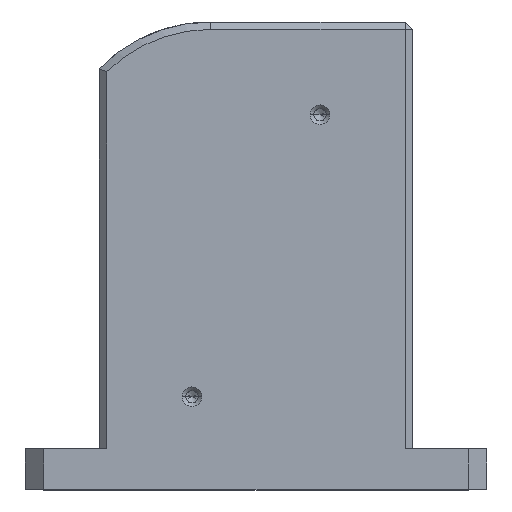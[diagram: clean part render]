
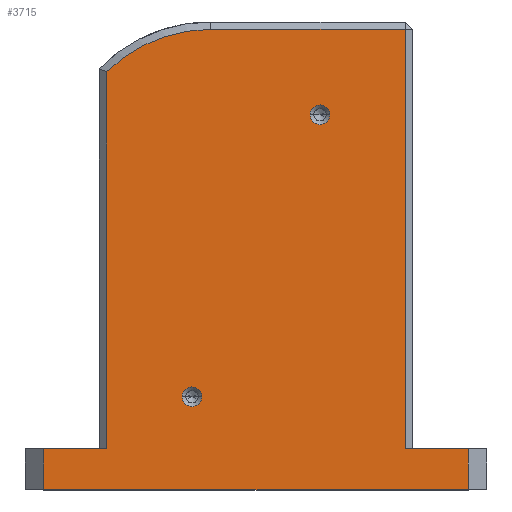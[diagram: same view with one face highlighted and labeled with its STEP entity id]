
A CAD part, top view. The second image highlights one B-rep face of the part: STEP entity #3715.
In plain terms, the highlighted planar face has unit normal (0, 0, 1).
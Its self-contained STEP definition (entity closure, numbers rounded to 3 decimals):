
#30 = DIRECTION ( 'NONE',  ( 0., 1., 0. ) ) ;
#131 = DIRECTION ( 'NONE',  ( 0., -1., 0. ) ) ;
#192 = VERTEX_POINT ( 'NONE', #2299 ) ;
#318 = EDGE_CURVE ( 'NONE', #848, #192, #13843, .T. ) ;
#848 = VERTEX_POINT ( 'NONE', #5892 ) ;
#1091 = AXIS2_PLACEMENT_3D ( 'NONE', #8907, #12371, #5644 ) ;
#1098 = VERTEX_POINT ( 'NONE', #2086 ) ;
#1299 = CARTESIAN_POINT ( 'NONE',  ( 32.15, 17., 37.5 ) ) ;
#1306 = DIRECTION ( 'NONE',  ( 1., 0., 0. ) ) ;
#1314 = EDGE_CURVE ( 'NONE', #6120, #17265, #7672, .T. ) ;
#1587 = ORIENTED_EDGE ( 'NONE', *, *, #2067, .T. ) ;
#1769 = DIRECTION ( 'NONE',  ( 1., 0., 0. ) ) ;
#1961 = ORIENTED_EDGE ( 'NONE', *, *, #15735, .T. ) ;
#2067 = EDGE_CURVE ( 'NONE', #20035, #5482, #10966, .T. ) ;
#2086 = CARTESIAN_POINT ( 'NONE',  ( -45., -84., 37.5 ) ) ;
#2299 = CARTESIAN_POINT ( 'NONE',  ( -7.65, -59., 37.5 ) ) ;
#2369 = AXIS2_PLACEMENT_3D ( 'NONE', #7801, #2757, #10858 ) ;
#2757 = DIRECTION ( 'NONE',  ( 0., 0., -1. ) ) ;
#2852 = ORIENTED_EDGE ( 'NONE', *, *, #4876, .T. ) ;
#2956 = LINE ( 'NONE', #9590, #10261 ) ;
#3076 = LINE ( 'NONE', #16024, #20406 ) ;
#3086 = DIRECTION ( 'NONE',  ( 0., 0., 1. ) ) ;
#3506 = CARTESIAN_POINT ( 'NONE',  ( -45., -73., 37.5 ) ) ;
#3518 = DIRECTION ( 'NONE',  ( 0., 0., -1. ) ) ;
#3715 = ADVANCED_FACE ( 'NONE', ( #7398, #12551, #13819 ), #8974, .T. ) ;
#4319 = CARTESIAN_POINT ( 'NONE',  ( 0., 40., 37.5 ) ) ;
#4663 = EDGE_LOOP ( 'NONE', ( #5621, #2852, #17438, #1587, #14024, #8915, #12434, #8770, #1961 ) ) ;
#4876 = EDGE_CURVE ( 'NONE', #10730, #12222, #2956, .T. ) ;
#5051 = VECTOR ( 'NONE', #30, 1000. ) ;
#5144 = DIRECTION ( 'NONE',  ( 0., -1., 0. ) ) ;
#5376 = CIRCLE ( 'NONE', #2369, 2.65 ) ;
#5482 = VERTEX_POINT ( 'NONE', #7958 ) ;
#5621 = ORIENTED_EDGE ( 'NONE', *, *, #10634, .T. ) ;
#5644 = DIRECTION ( 'NONE',  ( 1., 0., 0. ) ) ;
#5794 = EDGE_CURVE ( 'NONE', #12222, #20035, #9828, .T. ) ;
#5820 = DIRECTION ( 'NONE',  ( 0., 0., 1. ) ) ;
#5892 = CARTESIAN_POINT ( 'NONE',  ( -2.35, -59., 37.5 ) ) ;
#6120 = VERTEX_POINT ( 'NONE', #4319 ) ;
#6463 = EDGE_LOOP ( 'NONE', ( #14815, #10868 ) ) ;
#6669 = CARTESIAN_POINT ( 'NONE',  ( -50., -73., 37.5 ) ) ;
#7102 = EDGE_CURVE ( 'NONE', #15505, #18554, #17591, .T. ) ;
#7398 = FACE_BOUND ( 'NONE', #14634, .T. ) ;
#7661 = CARTESIAN_POINT ( 'NONE',  ( 26.85, 17., 37.5 ) ) ;
#7672 = CIRCLE ( 'NONE', #18434, 40. ) ;
#7801 = CARTESIAN_POINT ( 'NONE',  ( -5., -59., 37.5 ) ) ;
#7958 = CARTESIAN_POINT ( 'NONE',  ( 52.5, 40., 37.5 ) ) ;
#8127 = CARTESIAN_POINT ( 'NONE',  ( -50., -73., 37.5 ) ) ;
#8174 = DIRECTION ( 'NONE',  ( 0., 0., -1. ) ) ;
#8182 = VERTEX_POINT ( 'NONE', #1299 ) ;
#8309 = DIRECTION ( 'NONE',  ( -1., 0., 0. ) ) ;
#8770 = ORIENTED_EDGE ( 'NONE', *, *, #7102, .T. ) ;
#8907 = CARTESIAN_POINT ( 'NONE',  ( -5., -59., 37.5 ) ) ;
#8915 = ORIENTED_EDGE ( 'NONE', *, *, #1314, .T. ) ;
#8974 = PLANE ( 'NONE',  #11373 ) ;
#9010 = VECTOR ( 'NONE', #9492, 1000. ) ;
#9397 = CARTESIAN_POINT ( 'NONE',  ( 0., 0., 37.5 ) ) ;
#9410 = CARTESIAN_POINT ( 'NONE',  ( 69.5, -84., 37.5 ) ) ;
#9492 = DIRECTION ( 'NONE',  ( -1., 0., 0. ) ) ;
#9590 = CARTESIAN_POINT ( 'NONE',  ( 69.5, 0., 37.5 ) ) ;
#9731 = DIRECTION ( 'NONE',  ( -1., 0., 0. ) ) ;
#9828 = LINE ( 'NONE', #6669, #12121 ) ;
#9858 = CIRCLE ( 'NONE', #12545, 2.65 ) ;
#9980 = CARTESIAN_POINT ( 'NONE',  ( -28., -73., 37.5 ) ) ;
#10056 = EDGE_CURVE ( 'NONE', #192, #848, #5376, .T. ) ;
#10261 = VECTOR ( 'NONE', #18833, 1000. ) ;
#10634 = EDGE_CURVE ( 'NONE', #1098, #10730, #12252, .T. ) ;
#10730 = VERTEX_POINT ( 'NONE', #9410 ) ;
#10858 = DIRECTION ( 'NONE',  ( 1., 0., 0. ) ) ;
#10868 = ORIENTED_EDGE ( 'NONE', *, *, #10950, .T. ) ;
#10883 = CARTESIAN_POINT ( 'NONE',  ( 54.5, -84., 37.5 ) ) ;
#10950 = EDGE_CURVE ( 'NONE', #13471, #8182, #9858, .T. ) ;
#10966 = LINE ( 'NONE', #12646, #5051 ) ;
#10980 = DIRECTION ( 'NONE',  ( 1., 0., 0. ) ) ;
#11373 = AXIS2_PLACEMENT_3D ( 'NONE', #15599, #5820, #1306 ) ;
#12121 = VECTOR ( 'NONE', #9731, 1000. ) ;
#12222 = VERTEX_POINT ( 'NONE', #13685 ) ;
#12252 = LINE ( 'NONE', #10883, #20153 ) ;
#12371 = DIRECTION ( 'NONE',  ( 0., 0., -1. ) ) ;
#12434 = ORIENTED_EDGE ( 'NONE', *, *, #14364, .T. ) ;
#12545 = AXIS2_PLACEMENT_3D ( 'NONE', #15185, #3518, #14773 ) ;
#12551 = FACE_BOUND ( 'NONE', #6463, .T. ) ;
#12646 = CARTESIAN_POINT ( 'NONE',  ( 52.5, 0., 37.5 ) ) ;
#13016 = VECTOR ( 'NONE', #5144, 1000. ) ;
#13054 = CARTESIAN_POINT ( 'NONE',  ( 0., 40., 37.5 ) ) ;
#13057 = CARTESIAN_POINT ( 'NONE',  ( 52.5, -73., 37.5 ) ) ;
#13471 = VERTEX_POINT ( 'NONE', #7661 ) ;
#13685 = CARTESIAN_POINT ( 'NONE',  ( 69.5, -73., 37.5 ) ) ;
#13718 = AXIS2_PLACEMENT_3D ( 'NONE', #19002, #8174, #1769 ) ;
#13819 = FACE_OUTER_BOUND ( 'NONE', #4663, .T. ) ;
#13843 = CIRCLE ( 'NONE', #1091, 2.65 ) ;
#14024 = ORIENTED_EDGE ( 'NONE', *, *, #18932, .T. ) ;
#14364 = EDGE_CURVE ( 'NONE', #17265, #15505, #16201, .T. ) ;
#14634 = EDGE_LOOP ( 'NONE', ( #15715, #19258 ) ) ;
#14773 = DIRECTION ( 'NONE',  ( 1., 0., 0. ) ) ;
#14801 = CARTESIAN_POINT ( 'NONE',  ( -28., 28.566, 37.5 ) ) ;
#14815 = ORIENTED_EDGE ( 'NONE', *, *, #16452, .T. ) ;
#15185 = CARTESIAN_POINT ( 'NONE',  ( 29.5, 17., 37.5 ) ) ;
#15505 = VERTEX_POINT ( 'NONE', #17272 ) ;
#15599 = CARTESIAN_POINT ( 'NONE',  ( 0., 0., 37.5 ) ) ;
#15695 = VECTOR ( 'NONE', #8309, 1000. ) ;
#15715 = ORIENTED_EDGE ( 'NONE', *, *, #318, .T. ) ;
#15735 = EDGE_CURVE ( 'NONE', #18554, #1098, #3076, .T. ) ;
#16024 = CARTESIAN_POINT ( 'NONE',  ( -45., 0., 37.5 ) ) ;
#16116 = LINE ( 'NONE', #13054, #15695 ) ;
#16201 = LINE ( 'NONE', #9980, #13016 ) ;
#16452 = EDGE_CURVE ( 'NONE', #8182, #13471, #18414, .T. ) ;
#16992 = DIRECTION ( 'NONE',  ( 1., 0., 0. ) ) ;
#17265 = VERTEX_POINT ( 'NONE', #14801 ) ;
#17272 = CARTESIAN_POINT ( 'NONE',  ( -28., -73., 37.5 ) ) ;
#17438 = ORIENTED_EDGE ( 'NONE', *, *, #5794, .T. ) ;
#17591 = LINE ( 'NONE', #8127, #9010 ) ;
#18414 = CIRCLE ( 'NONE', #13718, 2.65 ) ;
#18434 = AXIS2_PLACEMENT_3D ( 'NONE', #9397, #3086, #10980 ) ;
#18554 = VERTEX_POINT ( 'NONE', #3506 ) ;
#18833 = DIRECTION ( 'NONE',  ( 0., 1., 0. ) ) ;
#18932 = EDGE_CURVE ( 'NONE', #5482, #6120, #16116, .T. ) ;
#19002 = CARTESIAN_POINT ( 'NONE',  ( 29.5, 17., 37.5 ) ) ;
#19258 = ORIENTED_EDGE ( 'NONE', *, *, #10056, .T. ) ;
#20035 = VERTEX_POINT ( 'NONE', #13057 ) ;
#20153 = VECTOR ( 'NONE', #16992, 1000. ) ;
#20406 = VECTOR ( 'NONE', #131, 1000. ) ;
